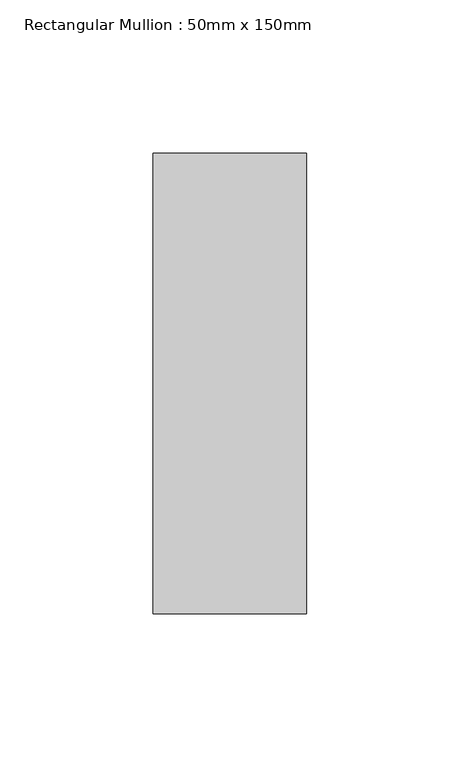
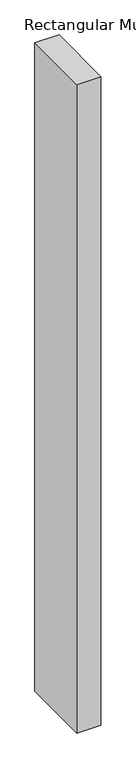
"""IFC4 building model written with IfcOpenShell, lengths in millimetres: member geometry, Rectangular Mullion : 50mm x 150mm."""

import ifcopenshell
import ifcopenshell.guid

model = None  # the IFC model being written
_history = None  # IfcOwnerHistory: only IFC2X3 demands one
_inside = {}  # id of a spatial element -> (the spatial element, [elements in it])
_under = {}  # id of a project, library or spatial element -> (it, [spatial elements below it])
_declared = {}  # id of a project -> (the project, [libraries it declares])
_typed = {}  # id of a type object -> (the type object, [elements of that type])
_made_of = {}  # id of a material, layer set ... -> (it, [elements and type objects made of it])


def new_model(schema):
    """Start an empty IFC model of exactly this schema.

    Asked for "IFC4X3", IfcOpenShell would pick the latest addendum, in which some entities
    have other attributes; the version numbers below select the first issue.
    IFC2X3 requires an IfcOwnerHistory on every rooted entity: one is made here for all.
    """
    global model, _history
    if schema == "IFC4X3":
        model = ifcopenshell.file(schema_version=(4, 3, 0, 0))
    else:
        model = ifcopenshell.file(schema=schema)
    _inside.clear()
    _under.clear()
    _declared.clear()
    _typed.clear()
    _made_of.clear()
    _history = None
    if model.schema == "IFC2X3":
        org = make("IfcOrganization", Name="unknown")
        user = make(
            "IfcPersonAndOrganization",
            ThePerson=make("IfcPerson", FamilyName="unknown"),
            TheOrganization=org,
        )
        app = make(
            "IfcApplication",
            ApplicationDeveloper=org,
            Version="unknown",
            ApplicationFullName="unknown",
            ApplicationIdentifier="unknown",
        )
        _history = make(
            "IfcOwnerHistory",
            OwningUser=user,
            OwningApplication=app,
            ChangeAction="ADDED",
            CreationDate=0,
        )
    return model


def make(cls, **values):
    """One entity of the class cls with the attributes given. An attribute that is None is left unset."""
    return model.create_entity(
        cls, **{name: value for name, value in values.items() if value is not None}
    )


def rooted(cls, **values):
    """An entity with a GlobalId (a new one), such as an element, a storey or a relation."""
    return make(cls, GlobalId=ifcopenshell.guid.new(), OwnerHistory=_history, **values)


def si_unit(unit_type, name, prefix=None):
    """IfcSIUnit, for example si_unit("LENGTHUNIT", "METRE", prefix="MILLI")."""
    return make("IfcSIUnit", UnitType=unit_type, Prefix=prefix, Name=name)


def assignment(units):
    """IfcUnitAssignment: the units of a project."""
    return None if units is None else make("IfcUnitAssignment", Units=units)


def point(xyz):
    """IfcCartesianPoint."""
    return None if xyz is None else make("IfcCartesianPoint", Coordinates=xyz)


def direction(xyz):
    """IfcDirection."""
    return None if xyz is None else make("IfcDirection", DirectionRatios=xyz)


def frame(location, z_axis=None, x_axis=None):
    """IfcAxis2Placement3D, a coordinate frame: its origin and axes. An axis left out is left unset."""
    return make(
        "IfcAxis2Placement3D",
        Location=point(location),
        Axis=direction(z_axis),
        RefDirection=direction(x_axis),
    )


def origin():
    """The frame at (0, 0, 0) with its axes left unset."""
    return frame((0.0, 0.0, 0.0))


def place(relative_to, where):
    """IfcLocalPlacement: puts the frame where relative to a parent placement (None: the world)."""
    return make(
        "IfcLocalPlacement", PlacementRelTo=relative_to, RelativePlacement=where
    )


def context(
    kind, dimensions, precision=None, world=None, true_north=None, identifier=None
):
    """IfcGeometricRepresentationContext, for example the 3D "Model" context."""
    return make(
        "IfcGeometricRepresentationContext",
        ContextIdentifier=identifier,
        ContextType=kind,
        CoordinateSpaceDimension=dimensions,
        Precision=precision,
        WorldCoordinateSystem=world,
        TrueNorth=true_north,
    )


def project(units=None, contexts=None):
    """IfcProject with its units and contexts."""
    return rooted(
        "IfcProject",
        Name="project",
        RepresentationContexts=contexts,
        UnitsInContext=assignment(units),
    )


def spatial(cls, under=None, at=None, **own):
    """A site, building, storey or space (cls), placed at a placement, below another one or the project."""
    s = rooted(cls, ObjectPlacement=at, **own)
    if under is not None:
        _under.setdefault(under.id(), (under, []))[1].append(s)
    return s


def polyline(points):
    """IfcPolyline through the points."""
    return make("IfcPolyline", Points=[point(p) for p in points])


def outline(outer, holes=None, kind="AREA"):
    """IfcArbitraryClosedProfileDef: a profile drawn as a closed curve; with holes, ...WithVoids."""
    if holes is None:
        return make("IfcArbitraryClosedProfileDef", ProfileType=kind, OuterCurve=outer)
    return make(
        "IfcArbitraryProfileDefWithVoids",
        ProfileType=kind,
        OuterCurve=outer,
        InnerCurves=holes,
    )


def extrude(swept, where, along, depth):
    """IfcExtrudedAreaSolid: the profile swept, set in the frame where, extruded along a direction by depth."""
    return make(
        "IfcExtrudedAreaSolid",
        SweptArea=swept,
        Position=where,
        ExtrudedDirection=direction(along),
        Depth=depth,
    )


def shape(context_of_items, identifier, shape_type, items):
    """IfcShapeRepresentation: the items that make up one representation, for example the "Body"."""
    return make(
        "IfcShapeRepresentation",
        ContextOfItems=context_of_items,
        RepresentationIdentifier=identifier,
        RepresentationType=shape_type,
        Items=items,
    )


def source(mapping_origin, context_of_items, identifier, shape_type, items):
    """IfcRepresentationMap: a shape defined once, which mapped items show again and again."""
    return make(
        "IfcRepresentationMap",
        MappingOrigin=mapping_origin,
        MappedRepresentation=shape(context_of_items, identifier, shape_type, items),
    )


def transform(
    local_origin,
    x_axis=None,
    y_axis=None,
    z_axis=None,
    scale=None,
    scale2=None,
    scale3=None,
    uniform=True,
):
    """IfcCartesianTransformationOperator3D, or its non-uniform kind. x_axis, y_axis, z_axis: its Axis1, 2, 3."""
    if uniform:
        return make(
            "IfcCartesianTransformationOperator3D",
            Axis1=direction(x_axis),
            Axis2=direction(y_axis),
            LocalOrigin=point(local_origin),
            Scale=scale,
            Axis3=direction(z_axis),
        )
    return make(
        "IfcCartesianTransformationOperator3DnonUniform",
        Axis1=direction(x_axis),
        Axis2=direction(y_axis),
        LocalOrigin=point(local_origin),
        Scale=scale,
        Axis3=direction(z_axis),
        Scale2=scale2,
        Scale3=scale3,
    )


def mapped(mapping_source, mapping_target):
    """IfcMappedItem: shows the shape of a source again, moved by a transform."""
    return make(
        "IfcMappedItem", MappingSource=mapping_source, MappingTarget=mapping_target
    )


def made_of(thing, what):
    """Note that an element or type object is made of a material, layer set ...; save() writes the relation."""
    if what is not None:
        _made_of.setdefault(what.id(), (what, []))[1].append(thing)
    return thing


def element(
    cls,
    number,
    at=None,
    inside=None,
    cuts=None,
    type_object=None,
    material=None,
    context=None,
    identifier="Body",
    shape_type=None,
    held_by="IfcProductDefinitionShape",
    body=None,
    shapes=None,
    **own,
):
    """One element of the class cls, such as IfcWall. Its Tag is "e" and its number.

    at: its placement. inside: the storey or other place that contains it. cuts: it is an
    opening in that element (IfcRelVoidsElement). A single representation is given by context,
    identifier, shape_type and body (its items); several are given by shapes. held_by: the class
    of the entity that holds the representations. save() writes the other relations.
    """
    e = rooted(cls, Tag="e%d" % number, ObjectPlacement=at, **own)
    if body is not None:
        shapes = [shape(context, identifier, shape_type, body)]
    if shapes is not None:
        e.Representation = make(held_by, Representations=shapes)
    if inside is not None:
        _inside.setdefault(inside.id(), (inside, []))[1].append(e)
    if cuts is not None:
        rooted(
            "IfcRelVoidsElement", RelatingBuildingElement=cuts, RelatedOpeningElement=e
        )
    if type_object is not None:
        _typed.setdefault(type_object.id(), (type_object, []))[1].append(e)
    return made_of(e, material)


def aggregate(whole, parts):
    """IfcRelAggregates: a whole, such as a stair, and the parts it consists of."""
    return rooted("IfcRelAggregates", RelatingObject=whole, RelatedObjects=parts)


def save(model, path):
    """Write the relations noted so far, then the file.

    IfcRelAggregates (storeys below a building ...), IfcRelContainedInSpatialStructure (elements
    in a storey), IfcRelDefinesByType, IfcRelAssociatesMaterial and IfcRelDeclares: one each for
    every whole, place, type object, material and project.
    """
    for whole, parts in _under.values():
        aggregate(whole, parts)
    for where, things in _inside.values():
        rooted(
            "IfcRelContainedInSpatialStructure",
            RelatedElements=things,
            RelatingStructure=where,
        )
    for kind, things in _typed.values():
        rooted("IfcRelDefinesByType", RelatedObjects=things, RelatingType=kind)
    for what, things in _made_of.values():
        rooted("IfcRelAssociatesMaterial", RelatedObjects=things, RelatingMaterial=what)
    for by, libraries in _declared.values():
        rooted("IfcRelDeclares", RelatingContext=by, RelatedDefinitions=libraries)
    model.write(path)


def rectangular_mullion_50mm_x_150mm_0d1e5fd7(model_context):
    return source(origin(), model_context, "Body", "SweptSolid", [
        extrude(outline(polyline([(0.0, 75.0), (0.0, -75.0), (-50.0, -75.0), (-50.0, 75.0), (0.0, 75.0)])), frame((0.0, 0.0, -1417.4732205), z_axis=(0.0, 0.0, 1.0), x_axis=(1.0, 0.0, 0.0)), (0.0, 0.0, 1.0), 1417.4732205),
    ])


if __name__ == "__main__":
    model = new_model("IFC4")
    model_context = context("Model", 3, world=origin())
    ifc_project = project(units=[si_unit("LENGTHUNIT", "METRE", prefix="MILLI")], contexts=[model_context])
    site = spatial("IfcSite", under=ifc_project)
    building = spatial("IfcBuilding", under=site)
    placement = place(None, origin())
    rectangular_mullion_50mm_x_150mm_shape = rectangular_mullion_50mm_x_150mm_0d1e5fd7(model_context)
    element("IfcMember", 1, ObjectType="Rectangular Mullion : 50mm x 150mm", at=placement, inside=building, context=model_context, shape_type="MappedRepresentation", body=[
        mapped(rectangular_mullion_50mm_x_150mm_shape, transform((0.0, 0.0, 0.0), x_axis=(1.0, 0.0, 0.0), y_axis=(0.0, 1.0, 0.0), z_axis=(0.0, 0.0, 1.0))),
    ])
    save(model, "model.ifc")
